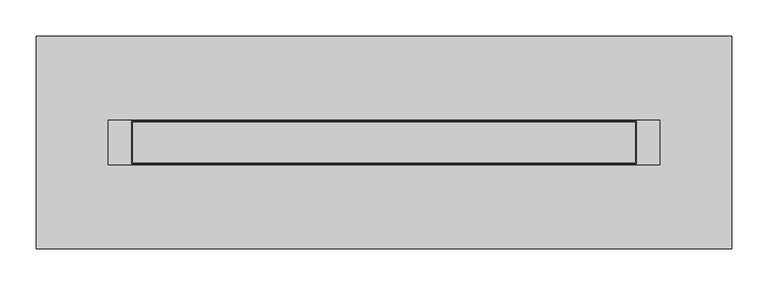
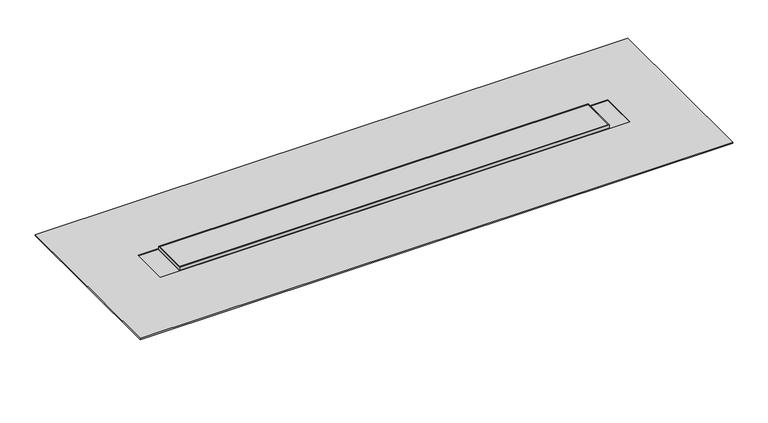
"""IFC4 building model written with IfcOpenShell, lengths in millimetres: sanitary terminal geometry, NLRS_PF_52_UN_Compact Modulo Stone_Easydrain : Compact Modulo Stone."""

from ifc_helpers import new_model, si_unit, frame, origin, place, context, project, spatial, polyline, circle_curve, ellipse_curve, outline, extrude, source, transform, mapped, element, save
from ifc_brep_helpers import plane_surface, cylinder_surface, advanced_brep


def sanitary_terminal_f3bc452c(model_context):
    return source(origin(), model_context, "Body", "SolidModel", [
        extrude(outline(polyline([(500.0, 29.5), (500.0, -29.5), (-200.0, -29.5), (-200.0, 29.5), (500.0, 29.5)])), frame((0.0, 0.0, -9.0), z_axis=(0.0, 0.0, 1.0), x_axis=(1.0, 0.0, 0.0)), (0.0, 0.0, 1.0), 3.0),
        extrude(outline(polyline([(498.5, 28.0), (498.5, -28.0), (-198.5, -28.0), (-198.5, 28.0), (498.5, 28.0)])), frame((0.0, 0.0, -6.0), z_axis=(0.0, 0.0, 1.0), x_axis=(1.0, 0.0, 0.0)), (0.0, 0.0, 1.0), 6.0),
        extrude(outline(polyline([(500.0, 29.5), (500.0, -29.5), (-200.0, -29.5), (-200.0, 29.5), (500.0, 29.5)]), holes=[polyline([(498.5, 28.0), (-198.5, 28.0), (-198.5, -28.0), (498.5, -28.0), (498.5, 28.0)])]), frame((0.0, 0.0, -6.0), z_axis=(0.0, 0.0, 1.0), x_axis=(1.0, 0.0, 0.0)), (0.0, 0.0, 1.0), 6.0),
        extrude(outline(polyline([(632.5, 147.5), (632.5, -147.5), (-332.5, -147.5), (-332.5, 147.5), (632.5, 147.5)]), holes=[polyline([(532.5, 31.0), (-232.5, 31.0), (-232.5, -31.0), (532.5, -31.0), (532.5, 31.0)])]), frame((0.0, 0.0, -7.0), z_axis=(0.0, 0.0, 1.0), x_axis=(1.0, 0.0, 0.0)), (0.0, 0.0, 1.0), 2.0),
        advanced_brep(
        [(-232.5, -31.0, -24.0), (40.0, -31.0, -26.0), (40.0, -31.0, -89.0), (260.0, -31.0, -89.0), (260.0, -31.0, -26.0), (532.5, -31.0, -24.0), (532.5, -31.0, -8.0), (-232.5, -31.0, -8.0), (150.0, -31.0, -29.0), (150.0, -31.0, -79.0), (532.5, 31.0, -24.0), (260.0, 31.0, -26.0), (260.0, 31.0, -89.0), (40.0, 31.0, -89.0), (40.0, 31.0, -26.0), (-232.5, 31.0, -24.0), (-232.5, 31.0, -8.0), (532.5, 31.0, -8.0), (-212.5, 0.0, -24.146789), (-172.5, 0.0, -24.440367), (532.5, 30.0, -8.0), (532.5, -30.0, -8.0), (550.0, 47.5, -6.0), (-250.0, 47.5, -6.0), (-250.0, -64.5, -6.0), (550.0, -64.5, -6.0), (-232.5, -30.0, -8.0), (-232.5, 30.0, -8.0), (472.5, 0.0, -24.440367), (512.5, 0.0, -24.146789), (150.0, -50.0, -29.0), (150.0, -50.0, -79.0), (550.0, 47.5, -8.0), (550.0, -64.5, -8.0), (-250.0, -64.5, -8.0), (-250.0, 47.5, -8.0), (-212.5, 0.0, -89.0), (-172.5, 0.0, -89.0), (472.5, 0.0, -89.0), (512.5, 0.0, -89.0)],
        [
            (0, 1),
            (1, 2),
            (2, 3),
            (3, 4),
            (4, 5),
            (5, 6),
            (6, 7),
            (7, 0),
            (8, 9, circle_curve(frame((150.0, -31.0, -54.0), z_axis=(0.0, 1.0, 0.0), x_axis=(0.0, 0.0, -1.0)), 25.0)),
            (9, 8, circle_curve(frame((150.0, -31.0, -54.0), z_axis=(0.0, 1.0, 0.0), x_axis=(0.0, 0.0, -1.0)), 25.0)),
            (10, 11),
            (11, 12),
            (12, 13),
            (13, 14),
            (14, 15),
            (15, 16),
            (16, 17),
            (17, 10),
            (0, 15),
            (14, 1),
            (18, 19, ellipse_curve(frame((-192.5, 0.0, -24.293578), z_axis=(0.007339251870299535, 0.0, 0.9999730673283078), x_axis=(-0.9999730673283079, 0.0, 0.007339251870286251)), 20.0005387, 20.0)),
            (19, 18, ellipse_curve(frame((-192.5, 0.0, -24.293578), z_axis=(0.007339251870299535, 0.0, 0.9999730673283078), x_axis=(-0.9999730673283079, 0.0, 0.007339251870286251)), 20.0005387, 20.0)),
            (5, 10),
            (17, 20),
            (20, 21),
            (21, 6),
            (22, 23),
            (23, 24),
            (24, 25),
            (25, 22),
            (7, 26),
            (26, 27),
            (27, 16),
            (13, 2),
            (12, 3),
            (11, 4),
            (28, 29, ellipse_curve(frame((492.5, 0.0, -24.293578), z_axis=(-0.00733925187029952, 0.0, 0.9999730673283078), x_axis=(0.9999730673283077, 0.0, 0.007339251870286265)), 20.0005387, 20.0)),
            (29, 28, ellipse_curve(frame((492.5, 0.0, -24.293578), z_axis=(-0.00733925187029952, 0.0, 0.9999730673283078), x_axis=(0.9999730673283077, 0.0, 0.007339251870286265)), 20.0005387, 20.0)),
            (30, 31, circle_curve(frame((150.0, -50.0, -54.0), z_axis=(0.0, -1.0, 0.0), x_axis=(0.0, 0.0, -1.0)), 25.0)),
            (31, 30, circle_curve(frame((150.0, -50.0, -54.0), z_axis=(0.0, -1.0, 0.0), x_axis=(0.0, 0.0, -1.0)), 25.0)),
            (31, 9),
            (8, 30),
            (32, 33),
            (33, 34),
            (34, 35),
            (35, 32),
            (22, 32),
            (35, 23),
            (34, 24),
            (33, 25),
            (36, 37, circle_curve(frame((-192.5, 0.0, -89.0), z_axis=(0.0, 0.0, -1.0), x_axis=(1.0, 0.0, 0.0)), 20.0)),
            (37, 36, circle_curve(frame((-192.5, 0.0, -89.0), z_axis=(0.0, 0.0, -1.0), x_axis=(1.0, 0.0, 0.0)), 20.0)),
            (38, 39, circle_curve(frame((492.5, 0.0, -89.0), z_axis=(0.0, 0.0, -1.0), x_axis=(1.0, 0.0, 0.0)), 20.0)),
            (39, 38, circle_curve(frame((492.5, 0.0, -89.0), z_axis=(0.0, 0.0, -1.0), x_axis=(1.0, 0.0, 0.0)), 20.0)),
            (37, 19),
            (18, 36),
            (39, 29),
            (28, 38),
        ],
        [
            plane_surface(frame((-232.5, -31.0, -24.0), z_axis=(0.0, -1.0, 0.0), x_axis=(0.9999730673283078, 0.0, -0.007339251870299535))),
            plane_surface(frame((-232.5, 31.0, -24.0), z_axis=(0.0, 1.0, 0.0), x_axis=(-0.9999730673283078, 0.0, 0.007339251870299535))),
            plane_surface(frame((-232.5, -31.0, -24.0), z_axis=(-0.007339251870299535, 0.0, -0.9999730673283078), x_axis=(0.0, 1.0, 0.0))),
            plane_surface(frame((532.5, -31.0, -24.0), z_axis=(1.0, 0.0, 0.0), x_axis=(0.0, 1.0, 0.0))),
            plane_surface(frame((532.5, -31.0, -6.0), z_axis=(0.0, 0.0, 1.0), x_axis=(0.0, 1.0, 0.0))),
            plane_surface(frame((-232.5, -31.0, -6.0), z_axis=(-1.0, 0.0, 0.0), x_axis=(0.0, 1.0, 0.0))),
            plane_surface(frame((40.0, -31.0, -26.0), z_axis=(-1.0, 0.0, 0.0), x_axis=(0.0, 1.0, 0.0))),
            plane_surface(frame((40.0, -31.0, -89.0), z_axis=(0.0, 0.0, -1.0), x_axis=(0.0, 1.0, 0.0))),
            plane_surface(frame((260.0, -31.0, -89.0), z_axis=(1.0, 0.0, 0.0), x_axis=(0.0, 1.0, 0.0))),
            plane_surface(frame((260.0, -31.0, -26.0), z_axis=(0.00733925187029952, 0.0, -0.9999730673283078), x_axis=(0.0, 1.0, 0.0))),
            plane_surface(frame((150.0, -50.0, -54.0), z_axis=(0.0, -1.0, 0.0), x_axis=(1.0, 0.0, 0.0))),
            cylinder_surface(frame((150.0, 0.0, -54.0), z_axis=(0.0, 1.0, 0.0), x_axis=(0.0, 0.0, -1.0)), 25.0),
            plane_surface(frame((532.5, 30.0, -8.0), z_axis=(0.0, 0.0, -1.0), x_axis=(0.0, 1.0, 0.0))),
            plane_surface(frame((550.0, 47.5, -6.0), z_axis=(0.0, 1.0, 0.0), x_axis=(0.0, 0.0, -1.0))),
            plane_surface(frame((-250.0, 47.5, -6.0), z_axis=(-1.0, 0.0, 0.0), x_axis=(0.0, 0.0, -1.0))),
            plane_surface(frame((-250.0, -64.5, -6.0), z_axis=(0.0, -1.0, 0.0), x_axis=(0.0, 0.0, -1.0))),
            plane_surface(frame((550.0, -64.5, -6.0), z_axis=(1.0, 0.0, 0.0), x_axis=(0.0, 0.0, -1.0))),
            plane_surface(frame((-172.5, 0.0, -89.0), z_axis=(0.0, 0.0, -1.0), x_axis=(0.0, -1.0, 0.0))),
            cylinder_surface(frame((-192.5, 0.0, -89.0), z_axis=(0.0, 0.0, 1.0), x_axis=(1.0, 0.0, 0.0)), 20.0),
            cylinder_surface(frame((492.5, 0.0, 0.0), z_axis=(0.0, 0.0, 1.0), x_axis=(1.0, 0.0, 0.0)), 20.0),
        ],
        [
            (0, [[1, 2, 3, 4, 5, 6, 7, 8], [9, 10]]),
            (1, [[11, 12, 13, 14, 15, 16, 17, 18]]),
            (2, [[-1, 19, -15, 20], [21, 22]]),
            (3, [[23, -18, 24, 25, 26, -6]]),
            (4, [[27, 28, 29, 30]]),
            (5, [[-19, -8, 31, 32, 33, -16]]),
            (6, [[-2, -20, -14, 34]]),
            (7, [[-3, -34, -13, 35]]),
            (8, [[-4, -35, -12, 36]]),
            (9, [[-5, -36, -11, -23], [37, 38]]),
            (10, [[39, 40]]),
            (11, [[-40, 41, -9, 42]]),
            (11, [[-39, -42, -10, -41]]),
            (12, [[43, 44, 45, 46], [-7, -26, -25, -24, -17, -33, -32, -31]]),
            (13, [[-27, 47, -46, 48]]),
            (14, [[-28, -48, -45, 49]]),
            (15, [[-29, -49, -44, 50]]),
            (16, [[-30, -50, -43, -47]]),
            (17, [[51, 52]]),
            (17, [[53, 54]]),
            (18, [[-52, 55, -21, 56]]),
            (18, [[-51, -56, -22, -55]]),
            (19, [[-54, 57, -37, 58]]),
            (19, [[-53, -58, -38, -57]]),
        ],
    ),
    ])


if __name__ == "__main__":
    model = new_model("IFC4")
    model_context = context("Model", 3, world=origin())
    ifc_project = project(units=[si_unit("LENGTHUNIT", "METRE", prefix="MILLI")], contexts=[model_context])
    site = spatial("IfcSite", under=ifc_project)
    building = spatial("IfcBuilding", under=site)
    placement = place(None, origin())
    sanitary_terminal_shape = sanitary_terminal_f3bc452c(model_context)
    element("IfcSanitaryTerminal", 1, ObjectType="NLRS_PF_52_UN_Compact Modulo Stone_Easydrain : Compact Modulo Stone", at=placement, inside=building, context=model_context, shape_type="MappedRepresentation", body=[
        mapped(sanitary_terminal_shape, transform((0.0, 0.0, 0.0), x_axis=(1.0, 0.0, 0.0), y_axis=(0.0, 1.0, 0.0), z_axis=(0.0, 0.0, 1.0))),
    ])
    save(model, "model.ifc")
